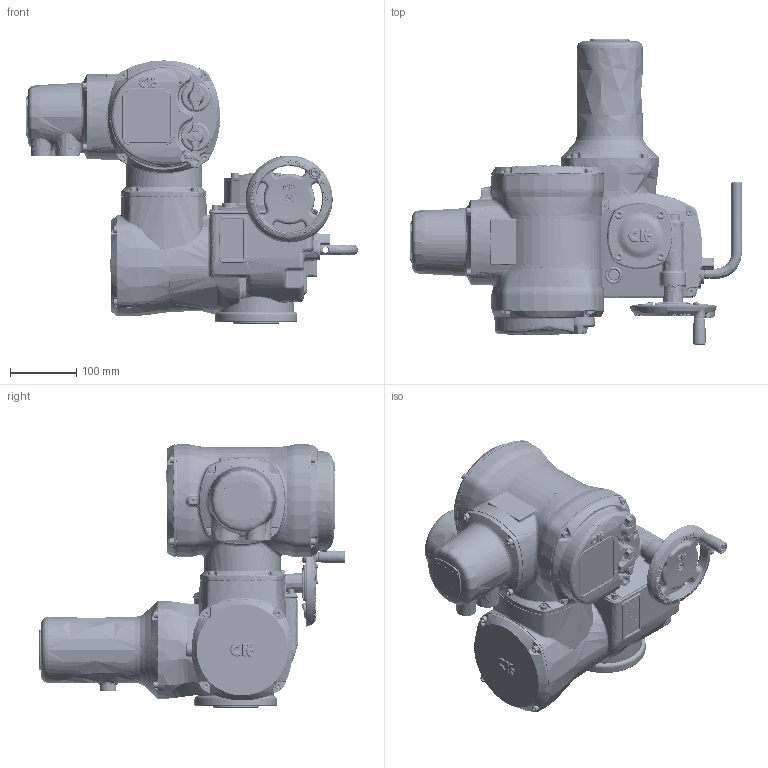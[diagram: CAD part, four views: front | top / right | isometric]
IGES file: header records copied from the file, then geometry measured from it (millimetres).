
Start section: C
Global section: file name: CK120 F10 NON THRUST BASE - ATRONIK.igs; native system: By Siemens PLM Incorporated; preprocessor: XPlus GENERIC/IGES 21.0.46; author: Author; organization: Title; date: 20181016.122430; units: millimetre
Bounding box: 502.85 x 462.65 x 398.78 mm (x, y, z)
Surface area: 836126.4 mm2 (no closed solid volume)
Topology: 0 solids, 0 shells, 10620 faces, 58090 edges, 57664 vertices
Faces by surface type: bspline 10620
